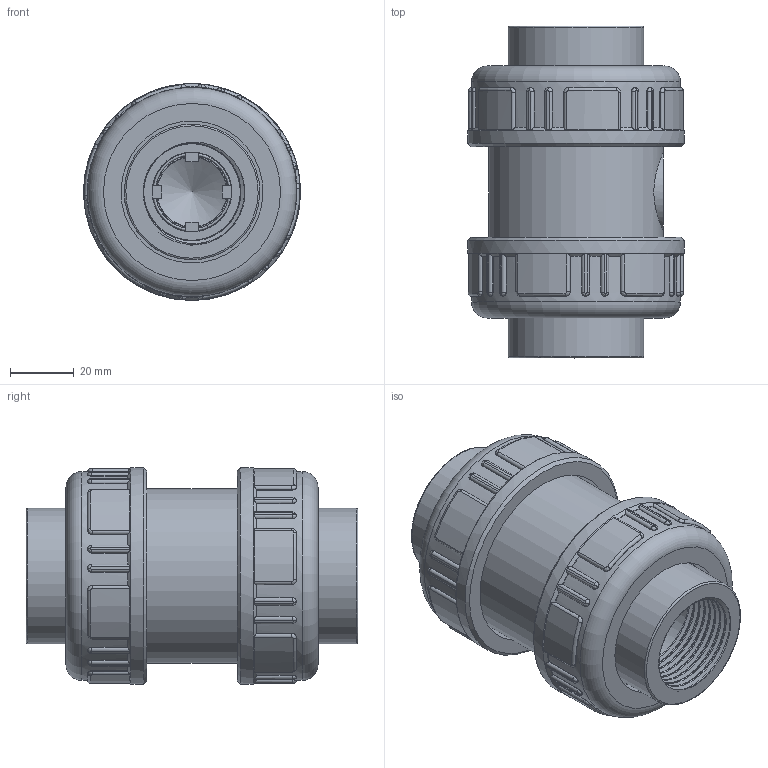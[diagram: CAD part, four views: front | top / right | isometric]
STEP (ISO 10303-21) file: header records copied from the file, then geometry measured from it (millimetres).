
FILE_DESCRIPTION(/* description */ (''),/* implementation_level */ '2;1');
FILE_NAME(/* name */ 'C:\Users\POLYPIPE\Desktop\DATASET INVENTOR\LIBRERIA EFFAST\3D_VALVOLE\3D_VALVOLE NON RITORNO\3D_CV\3D_CERCVE\3D_CERCVE032D.stp',/* time_stamp */ '2018-01-24T17:08:13+01:00',/* author */ ('POLYPIPE'),/* organization */ (''),/* preprocessor_version */ 'ST-DEVELOPER v16.1',/* originating_system */ 'Autodesk Inventor 2016',/* authorisation */ '');
FILE_SCHEMA (('CONFIG_CONTROL_DESIGN'));
Length unit declared in the file: centimetre
Products named in the file (1): 3D_CERCVE032D
Bounding box: 67.99 x 104 x 67.99 mm (x, y, z)
Volume: 174558.4 mm3; surface area: 72623.9 mm2
Topology: 2 solids, 4 shells, 560 faces, 1453 edges, 919 vertices
Faces by surface type: plane 205, bspline 157, cylinder 149, torus 39, cone 10
Full cylindrical faces by diameter (mm): 25 x2, 25.6 x1, 25.8 x2, 30.291 x2, 30.8 x2, 33 x1, 35.4 x1, 38 x2, 39.4 x1, 42.5 x2, 44.5 x2, 44.6 x1, 45.5 x1, 45.8 x1, 46 x1, 51 x2, 54.7 x1, 56.7 x2, 65.5 x2, 68 x2
Entity records: 68079 total; most frequent: CARTESIAN_POINT 54970, ORIENTED_EDGE 2746, DIRECTION 2296, EDGE_CURVE 1373, VERTEX_POINT 900, AXIS2_PLACEMENT_3D 877, EDGE_LOOP 651, STYLED_ITEM 561
